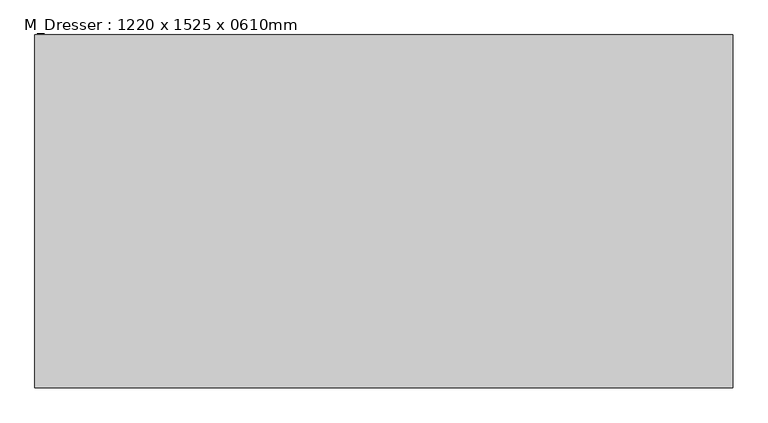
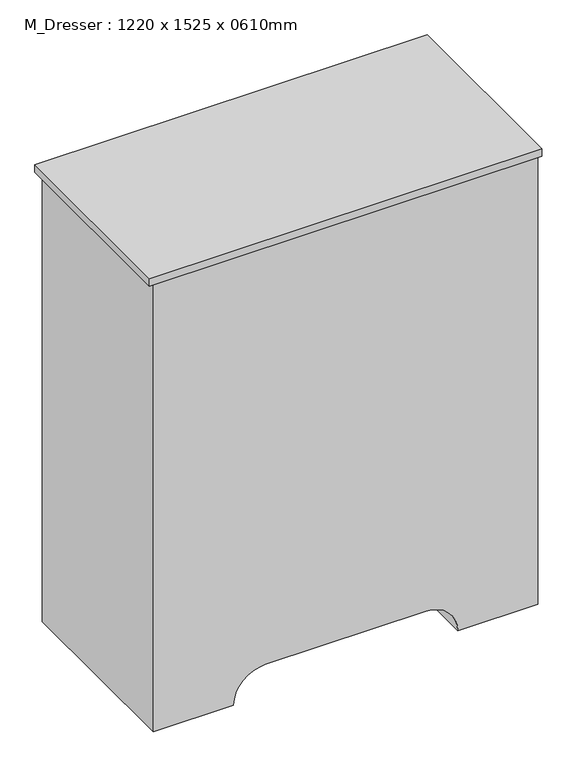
"""IFC4 building model written with IfcOpenShell, lengths in millimetres: furniture geometry, M_Dresser : 1220 x 1525 x 0610mm."""

from ifc_helpers import new_model, si_unit, point, frame, frame_2d, origin, place, context, project, spatial, polyline, circle_curve, trimmed, segment, composite_curve, outline, extrude, source, transform, mapped, element, save


def m_dresser_1220_x_1525_x_0610mm_4e5de046(model_context):
    return source(origin(), model_context, "Body", "SweptSolid", [
        extrude(outline(polyline([(353.5067402, 58.1629541), (-891.8932598, 58.1629541), (-891.8932598, 687.2129541), (353.5067402, 687.2129541), (353.5067402, 58.1629541)])), frame((0.0, 0.0, 1499.6), z_axis=(0.0, 0.0, 1.0), x_axis=(1.0, 0.0, 0.0)), (0.0, 0.0, 1.0), 25.4),
        extrude(outline(composite_curve([segment(polyline([(0.0, 340.8067402), (1499.6, 340.8067402), (1499.6, -879.1932598), (0.0, -879.1932598), (0.0, -625.1932598)]), True, "CONTINUOUS"), segment(trimmed(circle_curve(frame_2d((0.0, -523.5932598)), 101.6), [point((0.0, -625.1932598))], [point((101.6, -523.5932598))], True, "CARTESIAN"), True, "CONTINUOUS"), segment(polyline([(101.6, -523.5932598), (101.6, -14.7932598)]), True, "CONTINUOUS"), segment(trimmed(circle_curve(frame_2d((0.0, -14.7932598)), 101.6), [point((101.6, -14.7932598))], [point((0.0, 86.8067402))], True, "CARTESIAN"), True, "CONTINUOUS"), segment(polyline([(0.0, 86.8067402), (0.0, 340.8067402)]), True, "CONTINUOUS")], self_intersect=False)), frame((0.0, 58.1629541, 0.0), z_axis=(0.0, 1.0, 0.0), x_axis=(0.0, 0.0, 1.0)), (0.0, 0.0, 1.0), 610.0),
        extrude(outline(composite_curve([segment(trimmed(circle_curve(frame_2d((1296.275, 10.4067402)), 25.4), [point((1296.275, -14.9932598))], [point((1296.275, 35.8067402))], False, "CARTESIAN"), True, "CONTINUOUS"), segment(trimmed(circle_curve(frame_2d((1296.275, 10.4067402)), 25.4), [point((1296.275, 35.8067402))], [point((1296.275, -14.9932598))], False, "CARTESIAN"), True, "CONTINUOUS")], self_intersect=False)), frame((0.0, 674.5129541, 0.0), z_axis=(0.0, 1.0, 0.0), x_axis=(0.0, 0.0, 1.0)), (0.0, 0.0, 1.0), 12.7),
        extrude(outline(composite_curve([segment(trimmed(circle_curve(frame_2d((991.225, 10.4067402)), 25.4), [point((991.225, -14.9932598))], [point((991.225, 35.8067402))], False, "CARTESIAN"), True, "CONTINUOUS"), segment(trimmed(circle_curve(frame_2d((991.225, 10.4067402)), 25.4), [point((991.225, 35.8067402))], [point((991.225, -14.9932598))], False, "CARTESIAN"), True, "CONTINUOUS")], self_intersect=False)), frame((0.0, 674.5129541, 0.0), z_axis=(0.0, 1.0, 0.0), x_axis=(0.0, 0.0, 1.0)), (0.0, 0.0, 1.0), 12.7),
        extrude(outline(composite_curve([segment(trimmed(circle_curve(frame_2d((686.175, 10.4067402)), 25.4), [point((686.175, -14.9932598))], [point((686.175, 35.8067402))], False, "CARTESIAN"), True, "CONTINUOUS"), segment(trimmed(circle_curve(frame_2d((686.175, 10.4067402)), 25.4), [point((686.175, 35.8067402))], [point((686.175, -14.9932598))], False, "CARTESIAN"), True, "CONTINUOUS")], self_intersect=False)), frame((0.0, 674.5129541, 0.0), z_axis=(0.0, 1.0, 0.0), x_axis=(0.0, 0.0, 1.0)), (0.0, 0.0, 1.0), 12.7),
        extrude(outline(composite_curve([segment(trimmed(circle_curve(frame_2d((381.125, 10.4067402)), 25.4), [point((381.125, -14.9932598))], [point((381.125, 35.8067402))], False, "CARTESIAN"), True, "CONTINUOUS"), segment(trimmed(circle_curve(frame_2d((381.125, 10.4067402)), 25.4), [point((381.125, 35.8067402))], [point((381.125, -14.9932598))], False, "CARTESIAN"), True, "CONTINUOUS")], self_intersect=False)), frame((0.0, 674.5129541, 0.0), z_axis=(0.0, 1.0, 0.0), x_axis=(0.0, 0.0, 1.0)), (0.0, 0.0, 1.0), 12.7),
        extrude(outline(composite_curve([segment(trimmed(circle_curve(frame_2d((381.125, -548.7932598)), 25.4), [point((381.125, -574.1932598))], [point((381.125, -523.3932598))], False, "CARTESIAN"), True, "CONTINUOUS"), segment(trimmed(circle_curve(frame_2d((381.125, -548.7932598)), 25.4), [point((381.125, -523.3932598))], [point((381.125, -574.1932598))], False, "CARTESIAN"), True, "CONTINUOUS")], self_intersect=False)), frame((0.0, 674.5129541, 0.0), z_axis=(0.0, 1.0, 0.0), x_axis=(0.0, 0.0, 1.0)), (0.0, 0.0, 1.0), 12.7),
        extrude(outline(composite_curve([segment(trimmed(circle_curve(frame_2d((686.175, -548.7932598)), 25.4), [point((686.175, -574.1932598))], [point((686.175, -523.3932598))], False, "CARTESIAN"), True, "CONTINUOUS"), segment(trimmed(circle_curve(frame_2d((686.175, -548.7932598)), 25.4), [point((686.175, -523.3932598))], [point((686.175, -574.1932598))], False, "CARTESIAN"), True, "CONTINUOUS")], self_intersect=False)), frame((0.0, 674.5129541, 0.0), z_axis=(0.0, 1.0, 0.0), x_axis=(0.0, 0.0, 1.0)), (0.0, 0.0, 1.0), 12.7),
        extrude(outline(composite_curve([segment(trimmed(circle_curve(frame_2d((991.225, -548.7932598)), 25.4), [point((991.225, -574.1932598))], [point((991.225, -523.3932598))], False, "CARTESIAN"), True, "CONTINUOUS"), segment(trimmed(circle_curve(frame_2d((991.225, -548.7932598)), 25.4), [point((991.225, -523.3932598))], [point((991.225, -574.1932598))], False, "CARTESIAN"), True, "CONTINUOUS")], self_intersect=False)), frame((0.0, 674.5129541, 0.0), z_axis=(0.0, 1.0, 0.0), x_axis=(0.0, 0.0, 1.0)), (0.0, 0.0, 1.0), 12.7),
        extrude(outline(composite_curve([segment(trimmed(circle_curve(frame_2d((1296.275, -548.7932598)), 25.4), [point((1296.275, -574.1932598))], [point((1296.275, -523.3932598))], False, "CARTESIAN"), True, "CONTINUOUS"), segment(trimmed(circle_curve(frame_2d((1296.275, -548.7932598)), 25.4), [point((1296.275, -523.3932598))], [point((1296.275, -574.1932598))], False, "CARTESIAN"), True, "CONTINUOUS")], self_intersect=False)), frame((0.0, 674.5129541, 0.0), z_axis=(0.0, 1.0, 0.0), x_axis=(0.0, 0.0, 1.0)), (0.0, 0.0, 1.0), 12.7),
        extrude(outline(polyline([(290.0067402, 674.5129541), (290.0067402, 668.1629541), (-828.3932598, 668.1629541), (-828.3932598, 674.5129541), (290.0067402, 674.5129541)])), frame((0.0, 0.0, 1156.45), z_axis=(0.0, 0.0, 1.0), x_axis=(1.0, 0.0, 0.0)), (0.0, 0.0, 1.0), 279.65),
        extrude(outline(polyline([(290.0067402, 674.5129541), (290.0067402, 668.1629541), (-828.3932598, 668.1629541), (-828.3932598, 674.5129541), (290.0067402, 674.5129541)])), frame((0.0, 0.0, 851.4), z_axis=(0.0, 0.0, 1.0), x_axis=(1.0, 0.0, 0.0)), (0.0, 0.0, 1.0), 279.65),
        extrude(outline(polyline([(290.0067402, 674.5129541), (290.0067402, 668.1629541), (-828.3932598, 668.1629541), (-828.3932598, 674.5129541), (290.0067402, 674.5129541)])), frame((0.0, 0.0, 546.35), z_axis=(0.0, 0.0, 1.0), x_axis=(1.0, 0.0, 0.0)), (0.0, 0.0, 1.0), 279.65),
        extrude(outline(polyline([(290.0067402, 674.5129541), (290.0067402, 668.1629541), (-828.3932598, 668.1629541), (-828.3932598, 674.5129541), (290.0067402, 674.5129541)])), frame((0.0, 0.0, 241.3), z_axis=(0.0, 0.0, 1.0), x_axis=(1.0, 0.0, 0.0)), (0.0, 0.0, 1.0), 279.65),
    ])


if __name__ == "__main__":
    model = new_model("IFC4")
    model_context = context("Model", 3, world=origin())
    ifc_project = project(units=[si_unit("LENGTHUNIT", "METRE", prefix="MILLI")], contexts=[model_context])
    site = spatial("IfcSite", under=ifc_project)
    building = spatial("IfcBuilding", under=site)
    placement = place(None, origin())
    m_dresser_1220_x_1525_x_0610mm_shape = m_dresser_1220_x_1525_x_0610mm_4e5de046(model_context)
    element("IfcFurniture", 1, ObjectType="M_Dresser : 1220 x 1525 x 0610mm", at=placement, inside=building, context=model_context, shape_type="MappedRepresentation", body=[
        mapped(m_dresser_1220_x_1525_x_0610mm_shape, transform((0.0, 0.0, 0.0), x_axis=(1.0, 0.0, 0.0), y_axis=(0.0, 1.0, 0.0), z_axis=(0.0, 0.0, 1.0))),
    ])
    save(model, "model.ifc")
